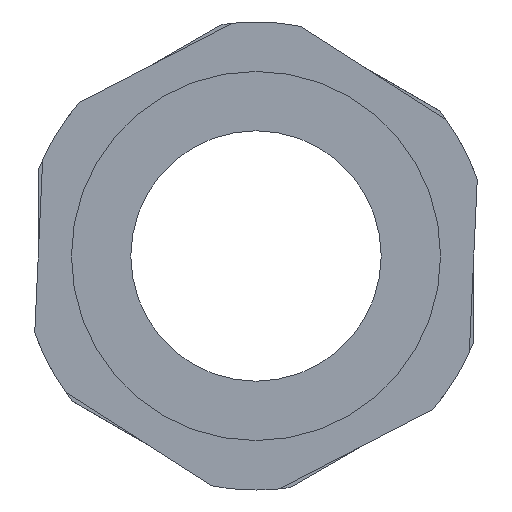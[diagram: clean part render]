
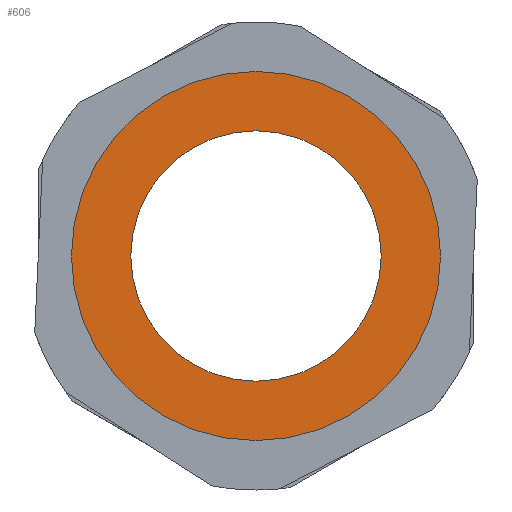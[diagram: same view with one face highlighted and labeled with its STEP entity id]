
A CAD part, front view. The second image highlights one B-rep face of the part: STEP entity #606.
In plain terms, the highlighted planar face has unit normal (0, -1, 0).
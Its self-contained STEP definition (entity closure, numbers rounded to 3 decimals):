
#48 = ORIENTED_EDGE ( 'NONE', *, *, #178, .F. ) ;
#53 = DIRECTION ( 'NONE',  ( 0., -1., 0. ) ) ;
#89 = CARTESIAN_POINT ( 'NONE',  ( 0., 0., 0. ) ) ;
#178 = EDGE_CURVE ( 'NONE', #1056, #2055, #1005, .T. ) ;
#224 = EDGE_CURVE ( 'NONE', #564, #974, #2252, .T. ) ;
#227 = EDGE_LOOP ( 'NONE', ( #48, #1425 ) ) ;
#307 = EDGE_LOOP ( 'NONE', ( #1823, #1387 ) ) ;
#313 = CARTESIAN_POINT ( 'NONE',  ( 0., 0., 9.5 ) ) ;
#337 = DIRECTION ( 'NONE',  ( 0., 0., 1. ) ) ;
#393 = AXIS2_PLACEMENT_3D ( 'NONE', #89, #1583, #643 ) ;
#397 = CIRCLE ( 'NONE', #393, 9.5 ) ;
#510 = PLANE ( 'NONE',  #559 ) ;
#547 = AXIS2_PLACEMENT_3D ( 'NONE', #1753, #53, #631 ) ;
#559 = AXIS2_PLACEMENT_3D ( 'NONE', #2369, #1259, #337 ) ;
#564 = VERTEX_POINT ( 'NONE', #1422 ) ;
#606 = ADVANCED_FACE ( 'NONE', ( #757, #2173 ), #510, .F. ) ;
#631 = DIRECTION ( 'NONE',  ( 0., 0., -1. ) ) ;
#643 = DIRECTION ( 'NONE',  ( 0., 0., -1. ) ) ;
#674 = DIRECTION ( 'NONE',  ( 0., -1., 0. ) ) ;
#757 = FACE_BOUND ( 'NONE', #227, .T. ) ;
#974 = VERTEX_POINT ( 'NONE', #1829 ) ;
#1005 = CIRCLE ( 'NONE', #1958, 9.5 ) ;
#1056 = VERTEX_POINT ( 'NONE', #1081 ) ;
#1081 = CARTESIAN_POINT ( 'NONE',  ( 0., 0., -9.5 ) ) ;
#1242 = DIRECTION ( 'NONE',  ( 0., 0., -1. ) ) ;
#1243 = EDGE_CURVE ( 'NONE', #2055, #1056, #397, .T. ) ;
#1259 = DIRECTION ( 'NONE',  ( 0., 1., 0. ) ) ;
#1387 = ORIENTED_EDGE ( 'NONE', *, *, #2235, .T. ) ;
#1392 = DIRECTION ( 'NONE',  ( 0., -1., 0. ) ) ;
#1422 = CARTESIAN_POINT ( 'NONE',  ( 0., 0., -14. ) ) ;
#1425 = ORIENTED_EDGE ( 'NONE', *, *, #1243, .F. ) ;
#1583 = DIRECTION ( 'NONE',  ( 0., -1., 0. ) ) ;
#1705 = AXIS2_PLACEMENT_3D ( 'NONE', #1975, #674, #1242 ) ;
#1753 = CARTESIAN_POINT ( 'NONE',  ( 0., 0., 0. ) ) ;
#1823 = ORIENTED_EDGE ( 'NONE', *, *, #224, .T. ) ;
#1829 = CARTESIAN_POINT ( 'NONE',  ( 0., 0., 14. ) ) ;
#1958 = AXIS2_PLACEMENT_3D ( 'NONE', #1986, #1392, #2348 ) ;
#1975 = CARTESIAN_POINT ( 'NONE',  ( 0., 0., 0. ) ) ;
#1986 = CARTESIAN_POINT ( 'NONE',  ( 0., 0., 0. ) ) ;
#2055 = VERTEX_POINT ( 'NONE', #313 ) ;
#2173 = FACE_OUTER_BOUND ( 'NONE', #307, .T. ) ;
#2235 = EDGE_CURVE ( 'NONE', #974, #564, #2247, .T. ) ;
#2247 = CIRCLE ( 'NONE', #547, 14. ) ;
#2252 = CIRCLE ( 'NONE', #1705, 14. ) ;
#2348 = DIRECTION ( 'NONE',  ( 0., 0., -1. ) ) ;
#2369 = CARTESIAN_POINT ( 'NONE',  ( 0., 0., 9.5 ) ) ;
